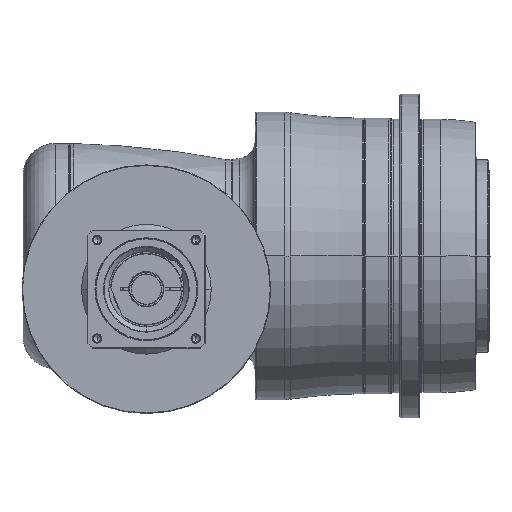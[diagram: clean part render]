
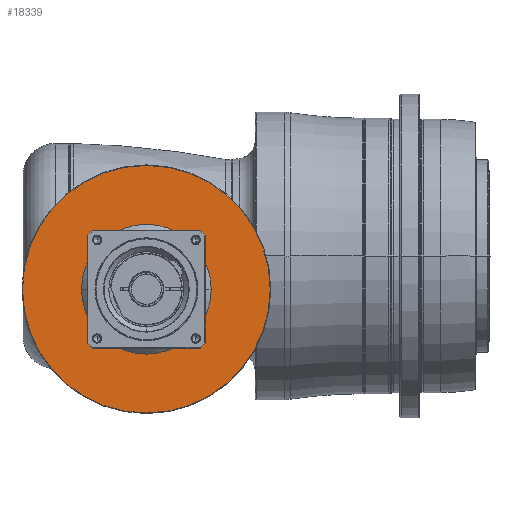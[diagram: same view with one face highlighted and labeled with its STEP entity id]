
A CAD part, front view. The second image highlights one B-rep face of the part: STEP entity #18339.
In plain terms, the highlighted planar face has unit normal (0, -1, 0) as drawn and (1, 0, 0) by its records, which use the part's own axes.
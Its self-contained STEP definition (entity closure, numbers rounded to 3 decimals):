
#17866=CARTESIAN_POINT('',(-5.5,0.,0.));
#17867=DIRECTION('',(-1.,0.,0.));
#17868=DIRECTION('',(0.,1.,0.));
#17869=AXIS2_PLACEMENT_3D('',#17866,#17867,#17868);
#17871=CARTESIAN_POINT('',(-5.5,0.,
0.));
#17872=DIRECTION('',(-1.,0.,0.));
#17873=DIRECTION('',(0.,-1.,0.));
#17874=AXIS2_PLACEMENT_3D('',#17871,#17872,#17873);
#17876=CARTESIAN_POINT('',(-5.5,0.,0.));
#17877=DIRECTION('',(-1.,0.,0.));
#17878=DIRECTION('',(0.,-1.,0.));
#17879=AXIS2_PLACEMENT_3D('',#17876,#17877,#17878);
#17881=CARTESIAN_POINT('',(-5.5,0.,0.));
#17882=DIRECTION('',(-1.,0.,0.));
#17883=DIRECTION('',(0.,1.,0.));
#17884=AXIS2_PLACEMENT_3D('',#17881,#17882,#17883);
#17910=CARTESIAN_POINT('',(-5.5,-115.5,0.));
#17911=CARTESIAN_POINT('',(-5.5,115.5,0.));
#17912=VERTEX_POINT('',#17910);
#17913=VERTEX_POINT('',#17911);
#17958=CARTESIAN_POINT('',(-5.5,60.5,0.));
#17959=CARTESIAN_POINT('',(-5.5,-60.5,
0.));
#17960=VERTEX_POINT('',#17958);
#17961=VERTEX_POINT('',#17959);
#18324=CARTESIAN_POINT('',(-5.5,0.,0.));
#18325=DIRECTION('',(1.,0.,0.));
#18326=DIRECTION('',(0.,-1.,0.));
#18327=AXIS2_PLACEMENT_3D('',#18324,#18325,#18326);
#18328=PLANE('',#18327);
#18329=ORIENTED_EDGE('',*,*,#18265,.T.);
#18330=ORIENTED_EDGE('',*,*,#18280,.T.);
#18331=EDGE_LOOP('',(#18329,#18330));
#18332=FACE_OUTER_BOUND('',#18331,.F.);
#18334=ORIENTED_EDGE('',*,*,#18333,.F.);
#18336=ORIENTED_EDGE('',*,*,#18335,.F.);
#18337=EDGE_LOOP('',(#18334,#18336));
#18338=FACE_BOUND('',#18337,.F.);
#18339=ADVANCED_FACE('',(#18332,#18338),#18328,.T.);
#17870=CIRCLE('',#17869,60.5);
#17875=CIRCLE('',#17874,60.5);
#17880=CIRCLE('',#17879,115.5);
#17885=CIRCLE('',#17884,115.5);
#18265=EDGE_CURVE('',#17912,#17913,#17880,.T.);
#18280=EDGE_CURVE('',#17913,#17912,#17885,.T.);
#18333=EDGE_CURVE('',#17960,#17961,#17870,.T.);
#18335=EDGE_CURVE('',#17961,#17960,#17875,.T.);
